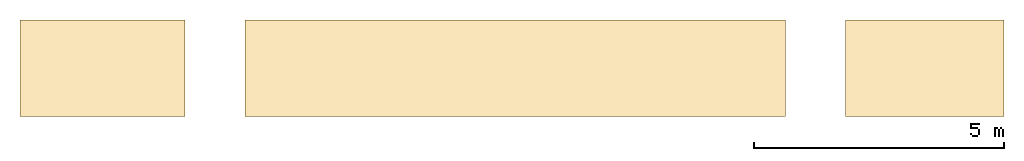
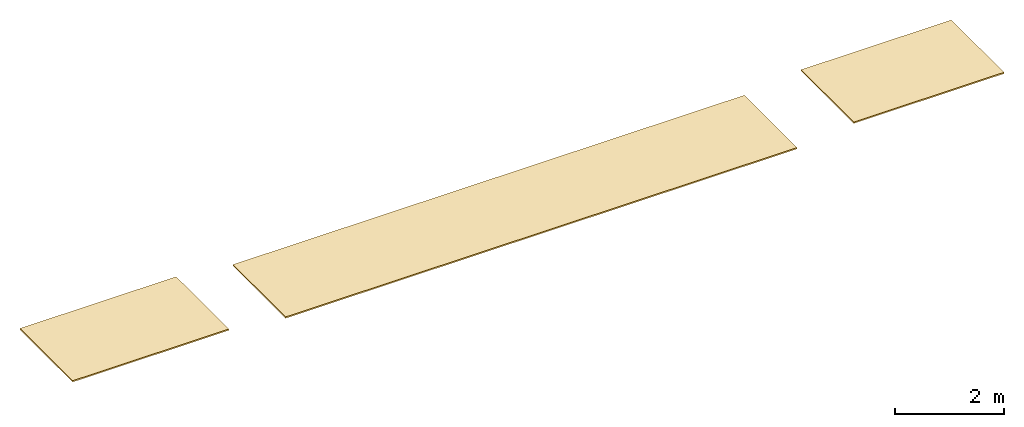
# One storey: 3 coverings.
"""IFC2X3 building model written with IfcOpenShell, lengths in millimetres."""

import ifcopenshell
import ifcopenshell.guid

model = None  # the IFC model being written
_history = None  # IfcOwnerHistory: only IFC2X3 demands one
_inside = {}  # id of a spatial element -> (the spatial element, [elements in it])
_under = {}  # id of a project, library or spatial element -> (it, [spatial elements below it])
_declared = {}  # id of a project -> (the project, [libraries it declares])
_typed = {}  # id of a type object -> (the type object, [elements of that type])
_made_of = {}  # id of a material, layer set ... -> (it, [elements and type objects made of it])


def new_model(schema):
    """Start an empty IFC model of exactly this schema.

    Asked for "IFC4X3", IfcOpenShell would pick the latest addendum, in which some entities
    have other attributes; the version numbers below select the first issue.
    IFC2X3 requires an IfcOwnerHistory on every rooted entity: one is made here for all.
    """
    global model, _history
    if schema == "IFC4X3":
        model = ifcopenshell.file(schema_version=(4, 3, 0, 0))
    else:
        model = ifcopenshell.file(schema=schema)
    _inside.clear()
    _under.clear()
    _declared.clear()
    _typed.clear()
    _made_of.clear()
    _history = None
    if model.schema == "IFC2X3":
        org = make("IfcOrganization", Name="unknown")
        user = make(
            "IfcPersonAndOrganization",
            ThePerson=make("IfcPerson", FamilyName="unknown"),
            TheOrganization=org,
        )
        app = make(
            "IfcApplication",
            ApplicationDeveloper=org,
            Version="unknown",
            ApplicationFullName="unknown",
            ApplicationIdentifier="unknown",
        )
        _history = make(
            "IfcOwnerHistory",
            OwningUser=user,
            OwningApplication=app,
            ChangeAction="ADDED",
            CreationDate=0,
        )
    return model


def make(cls, **values):
    """One entity of the class cls with the attributes given. An attribute that is None is left unset."""
    return model.create_entity(
        cls, **{name: value for name, value in values.items() if value is not None}
    )


def entity(cls, *values):
    """Any entity or typed value of the class cls, its attributes in the order of the schema. None: left unset."""
    e = model.create_entity(cls)
    for i, value in enumerate(values):
        if value is not None:
            e[i] = value
    return e


def rooted(cls, **values):
    """An entity with a GlobalId (a new one), such as an element, a storey or a relation."""
    return make(cls, GlobalId=ifcopenshell.guid.new(), OwnerHistory=_history, **values)


def si_unit(unit_type, name, prefix=None):
    """IfcSIUnit, for example si_unit("LENGTHUNIT", "METRE", prefix="MILLI")."""
    return make("IfcSIUnit", UnitType=unit_type, Prefix=prefix, Name=name)


def converted_unit(unit_type, name, factor, base, dimensions=None, offset=None):
    """IfcConversionBasedUnit, such as the inch: factor (a typed value) times the base unit."""
    return make(
        "IfcConversionBasedUnit"
        if offset is None
        else "IfcConversionBasedUnitWithOffset",
        ConversionOffset=offset,
        Dimensions=None
        if dimensions is None
        else entity("IfcDimensionalExponents", *dimensions),
        UnitType=unit_type,
        Name=name,
        ConversionFactor=make(
            "IfcMeasureWithUnit", ValueComponent=factor, UnitComponent=base
        ),
    )


def derived_unit(unit_type, elements):
    """IfcDerivedUnit: a product of units, each with its exponent."""
    return make(
        "IfcDerivedUnit",
        Elements=[
            make("IfcDerivedUnitElement", Unit=unit, Exponent=power)
            for unit, power in elements
        ],
        UnitType=unit_type,
    )


def assignment(units):
    """IfcUnitAssignment: the units of a project."""
    return None if units is None else make("IfcUnitAssignment", Units=units)


def point(xyz):
    """IfcCartesianPoint."""
    return None if xyz is None else make("IfcCartesianPoint", Coordinates=xyz)


def direction(xyz):
    """IfcDirection."""
    return None if xyz is None else make("IfcDirection", DirectionRatios=xyz)


def frame(location, z_axis=None, x_axis=None):
    """IfcAxis2Placement3D, a coordinate frame: its origin and axes. An axis left out is left unset."""
    return make(
        "IfcAxis2Placement3D",
        Location=point(location),
        Axis=direction(z_axis),
        RefDirection=direction(x_axis),
    )


def origin_with_axes():
    """The frame at (0, 0, 0) with the z axis (0, 0, 1) and the x axis (1, 0, 0) written out."""
    return frame((0.0, 0.0, 0.0), z_axis=(0.0, 0.0, 1.0), x_axis=(1.0, 0.0, 0.0))


def place(relative_to, where):
    """IfcLocalPlacement: puts the frame where relative to a parent placement (None: the world)."""
    return make(
        "IfcLocalPlacement", PlacementRelTo=relative_to, RelativePlacement=where
    )


def context(
    kind, dimensions, precision=None, world=None, true_north=None, identifier=None
):
    """IfcGeometricRepresentationContext, for example the 3D "Model" context."""
    return make(
        "IfcGeometricRepresentationContext",
        ContextIdentifier=identifier,
        ContextType=kind,
        CoordinateSpaceDimension=dimensions,
        Precision=precision,
        WorldCoordinateSystem=world,
        TrueNorth=true_north,
    )


def subcontext(parent, identifier, kind, view, scale=None):
    """IfcGeometricRepresentationSubContext, for example "Body" below "Model"."""
    return make(
        "IfcGeometricRepresentationSubContext",
        ContextIdentifier=identifier,
        ContextType=kind,
        ParentContext=parent,
        TargetScale=scale,
        TargetView=view,
    )


def project(units=None, contexts=None):
    """IfcProject with its units and contexts."""
    return rooted(
        "IfcProject",
        Name="project",
        RepresentationContexts=contexts,
        UnitsInContext=assignment(units),
    )


def spatial(cls, under=None, at=None, **own):
    """A site, building, storey or space (cls), placed at a placement, below another one or the project."""
    s = rooted(cls, ObjectPlacement=at, **own)
    if under is not None:
        _under.setdefault(under.id(), (under, []))[1].append(s)
    return s


def faces_of(points, faces, orient=None, outer=None):
    """IfcFace entities. A face is a list of loops; a loop is a list of indices into points, from 0.

    orient and outer hold one flag for each loop. By default every Orientation is true, the
    first loop of a face is its IfcFaceOuterBound and the others are IfcFaceBound.
    """
    made = []
    for i, loops in enumerate(faces):
        bounds = []
        for j, loop in enumerate(loops):
            is_outer = j == 0 if outer is None else outer[i][j]
            bounds.append(
                make(
                    "IfcFaceOuterBound" if is_outer else "IfcFaceBound",
                    Bound=make("IfcPolyLoop", Polygon=[points[k] for k in loop]),
                    Orientation=True if orient is None else orient[i][j],
                )
            )
        made.append(make("IfcFace", Bounds=bounds))
    return made


def faceted_brep(points, faces, orient=None, outer=None, voids=None):
    """IfcFacetedBrep: a solid bounded by flat faces; with voids (closed shells), ...WithVoids."""
    shared = [point(p) for p in points]
    hull = make("IfcClosedShell", CfsFaces=faces_of(shared, faces, orient, outer))
    if voids is None:
        return make("IfcFacetedBrep", Outer=hull)
    return make(
        "IfcFacetedBrepWithVoids",
        Outer=hull,
        Voids=[
            make(cls, CfsFaces=faces_of(shared, fs, o, b)) for cls, fs, o, b in voids
        ],
    )


def shape(context_of_items, identifier, shape_type, items):
    """IfcShapeRepresentation: the items that make up one representation, for example the "Body"."""
    return make(
        "IfcShapeRepresentation",
        ContextOfItems=context_of_items,
        RepresentationIdentifier=identifier,
        RepresentationType=shape_type,
        Items=items,
    )


def made_of(thing, what):
    """Note that an element or type object is made of a material, layer set ...; save() writes the relation."""
    if what is not None:
        _made_of.setdefault(what.id(), (what, []))[1].append(thing)
    return thing


def type_object(cls, material=None, **own):
    """A type object (cls), such as IfcWallType, which elements share."""
    return made_of(rooted(cls, **own), material)


def element(
    cls,
    number,
    at=None,
    inside=None,
    cuts=None,
    type_object=None,
    material=None,
    context=None,
    identifier="Body",
    shape_type=None,
    held_by="IfcProductDefinitionShape",
    body=None,
    shapes=None,
    **own,
):
    """One element of the class cls, such as IfcWall. Its Tag is "e" and its number.

    at: its placement. inside: the storey or other place that contains it. cuts: it is an
    opening in that element (IfcRelVoidsElement). A single representation is given by context,
    identifier, shape_type and body (its items); several are given by shapes. held_by: the class
    of the entity that holds the representations. save() writes the other relations.
    """
    e = rooted(cls, Tag="e%d" % number, ObjectPlacement=at, **own)
    if body is not None:
        shapes = [shape(context, identifier, shape_type, body)]
    if shapes is not None:
        e.Representation = make(held_by, Representations=shapes)
    if inside is not None:
        _inside.setdefault(inside.id(), (inside, []))[1].append(e)
    if cuts is not None:
        rooted(
            "IfcRelVoidsElement", RelatingBuildingElement=cuts, RelatedOpeningElement=e
        )
    if type_object is not None:
        _typed.setdefault(type_object.id(), (type_object, []))[1].append(e)
    return made_of(e, material)


def aggregate(whole, parts):
    """IfcRelAggregates: a whole, such as a stair, and the parts it consists of."""
    return rooted("IfcRelAggregates", RelatingObject=whole, RelatedObjects=parts)


def save(model, path):
    """Write the relations noted so far, then the file.

    IfcRelAggregates (storeys below a building ...), IfcRelContainedInSpatialStructure (elements
    in a storey), IfcRelDefinesByType, IfcRelAssociatesMaterial and IfcRelDeclares: one each for
    every whole, place, type object, material and project.
    """
    for whole, parts in _under.values():
        aggregate(whole, parts)
    for where, things in _inside.values():
        rooted(
            "IfcRelContainedInSpatialStructure",
            RelatedElements=things,
            RelatingStructure=where,
        )
    for kind, things in _typed.values():
        rooted("IfcRelDefinesByType", RelatedObjects=things, RelatingType=kind)
    for what, things in _made_of.values():
        rooted("IfcRelAssociatesMaterial", RelatedObjects=things, RelatingMaterial=what)
    for by, libraries in _declared.values():
        rooted("IfcRelDeclares", RelatingContext=by, RelatedDefinitions=libraries)
    model.write(path)


model = new_model("IFC2X3")

# Units and contexts
model_context = context("Model", 3, precision=0.01, world=frame((0.0, 4.29681676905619e-09, 0.0)), true_north=direction((4.01073788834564e-13, 1.0)))
plan_context = context("Plan", 3, precision=0.01, world=frame((0.0, 4.29681676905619e-09, 0.0)), true_north=direction((4.01073788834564e-13, 1.0)))
body_context = subcontext(model_context, "Body", "Model", "MODEL_VIEW")
ifc_project = project(units=[converted_unit("PLANEANGLEUNIT", "DEGREE", entity("IfcPositiveLengthMeasure", 0.0174532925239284), si_unit("PLANEANGLEUNIT", "RADIAN"), dimensions=[0, 0, 0, 0, 0, 0, 0]), si_unit("AREAUNIT", "SQUARE_METRE"), si_unit("LENGTHUNIT", "METRE", prefix="MILLI"), si_unit("MASSUNIT", "GRAM", prefix="KILO"), si_unit("POWERUNIT", "WATT"), si_unit("PRESSUREUNIT", "PASCAL", prefix="KILO"), si_unit("FORCEUNIT", "NEWTON", prefix="KILO"), si_unit("ELECTRICVOLTAGEUNIT", "VOLT"), si_unit("ELECTRICCURRENTUNIT", "AMPERE"), si_unit("THERMODYNAMICTEMPERATUREUNIT", "DEGREE_CELSIUS"), si_unit("TIMEUNIT", "SECOND"), si_unit("VOLUMEUNIT", "CUBIC_METRE"), derived_unit("LINEARVELOCITYUNIT", [(si_unit("LENGTHUNIT", "METRE"), 1), (si_unit("TIMEUNIT", "SECOND"), -1)]), derived_unit("VOLUMETRICFLOWRATEUNIT", [(si_unit("VOLUMEUNIT", "CUBIC_METRE"), 1), (si_unit("TIMEUNIT", "SECOND"), -1)]), derived_unit("THERMALTRANSMITTANCEUNIT", [(si_unit("POWERUNIT", "WATT"), 1), (si_unit("THERMODYNAMICTEMPERATUREUNIT", "KELVIN"), -1), (si_unit("AREAUNIT", "SQUARE_METRE"), -1)]), derived_unit("SOUNDPRESSUREUNIT", [(si_unit("PRESSUREUNIT", "PASCAL"), 1)])], contexts=[model_context, plan_context])

# Site, building, storey
site_placement = place(None, origin_with_axes())
site = spatial("IfcSite", under=ifc_project, at=site_placement, Name="ENGM", CompositionType="ELEMENT")
building_placement = place(site_placement, origin_with_axes())
building = spatial("IfcBuilding", under=site, at=building_placement, Name="TI", CompositionType="ELEMENT")
storey_placement = place(building_placement, frame((0.0, 0.0, 204000.0), z_axis=(0.0, 0.0, 1.0), x_axis=(1.0, 0.0, 0.0)))
storey = spatial("IfcBuildingStorey", under=building, at=storey_placement, Name="Nivå D", CompositionType="ELEMENT", Elevation=204000.0)

# Coverings
covering_type = type_object("IfcCoveringType", Name="Compound Ceiling:A255 - HI-G03", PredefinedType="CEILING")
covering_1_placement = place(storey_placement, origin_with_axes())
element("IfcCovering", 1, at=covering_1_placement, inside=storey, type_object=covering_type, Name="Compound Ceiling:A255 - HI-G03", ObjectType="Compound Ceiling:A255 - HI-G03", PredefinedType="CEILING", context=body_context, shape_type="Brep", body=[
    faceted_brep([(582101.719734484, 576299.999999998, 6250.0), (582101.719734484, 576299.999999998, 6279.99999999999), (585400.0, 576299.999999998, 6279.99999999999), (585400.0, 576299.999999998, 6250.0), (585400.0, 578227.499999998, 6279.99999999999), (585400.0, 578227.499999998, 6250.0), (582101.719734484, 578227.499999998, 6250.0), (582101.719734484, 578227.499999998, 6279.99999999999)], [[[0, 1, 2, 3]], [[4, 5, 3, 2]], [[5, 6, 0, 3]], [[1, 7, 4, 2]], [[6, 5, 4, 7]], [[7, 1, 0, 6]]], orient=[[False], [False], [False], [False], [False], [False]]),
])
covering_2_placement = place(storey_placement, origin_with_axes())
element("IfcCovering", 2, at=covering_2_placement, inside=storey, type_object=covering_type, Name="Compound Ceiling:A255 - HI-G03", ObjectType="Compound Ceiling:A255 - HI-G03", PredefinedType="CEILING", context=body_context, shape_type="Brep", body=[
    faceted_brep([(597400.0, 578227.499999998, 6129.99999999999), (597400.0, 578227.499999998, 6100.0), (597400.0, 576299.999999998, 6100.0), (597400.0, 576299.999999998, 6129.99999999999), (586600.0, 578227.499999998, 6100.0), (586600.0, 578227.499999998, 6129.99999999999), (586600.0, 576299.999999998, 6129.99999999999), (586600.0, 576299.999999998, 6100.0)], [[[0, 1, 2, 3]], [[4, 5, 6, 7]], [[7, 6, 3, 2]], [[1, 4, 7, 2]], [[5, 0, 3, 6]], [[5, 4, 1, 0]]], orient=[[False], [False], [False], [False], [False], [False]]),
])
covering_3_placement = place(storey_placement, origin_with_axes())
element("IfcCovering", 3, at=covering_3_placement, inside=storey, type_object=covering_type, Name="Compound Ceiling:A255 - HI-G03", ObjectType="Compound Ceiling:A255 - HI-G03", PredefinedType="CEILING", context=body_context, shape_type="Brep", body=[
    faceted_brep([(598600.000000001, 578227.499999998, 6250.0), (598600.000000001, 578227.499999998, 6279.99999999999), (598600.000000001, 576299.999999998, 6279.99999999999), (598600.000000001, 576299.999999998, 6250.0), (601772.937628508, 576299.999999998, 6279.99999999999), (601772.937628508, 576299.999999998, 6250.0), (601772.937628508, 578227.499999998, 6250.0), (601772.937628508, 578227.499999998, 6279.99999999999)], [[[0, 1, 2, 3]], [[4, 5, 3, 2]], [[5, 6, 0, 3]], [[1, 7, 4, 2]], [[6, 5, 4, 7]], [[7, 1, 0, 6]]], orient=[[False], [False], [False], [False], [False], [False]]),
])

save(model, "model.ifc")
